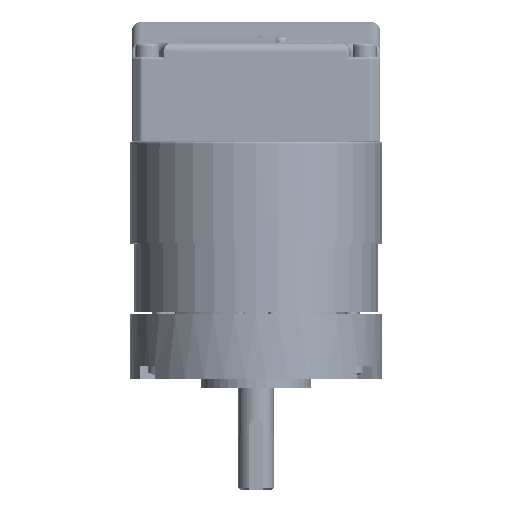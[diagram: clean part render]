
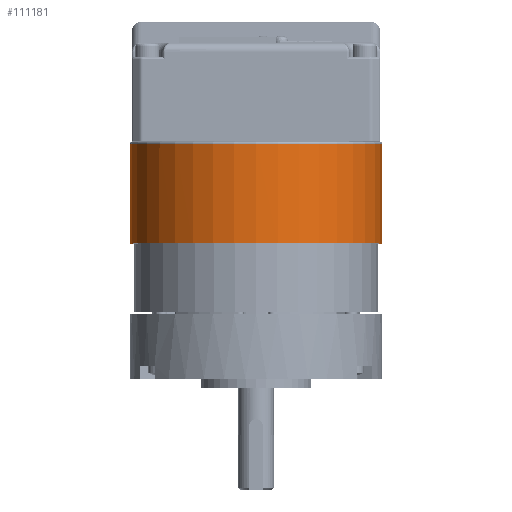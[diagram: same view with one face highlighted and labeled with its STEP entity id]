
A CAD part, top view. The second image highlights one B-rep face of the part: STEP entity #111181.
In plain terms, the highlighted cylindrical face has radius 28.5 mm (diameter 57 mm), a partial arc.
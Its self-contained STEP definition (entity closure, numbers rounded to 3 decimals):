
#110224=CARTESIAN_POINT('',(0.,0.,0.));
#110225=DIRECTION('',(1.,0.,0.));
#110226=DIRECTION('',(0.,1.,0.));
#110227=AXIS2_PLACEMENT_3D('',#110224,#110225,#110226);
#110279=DIRECTION('',(1.,0.,0.));
#110280=VECTOR('',#110279,22.5);
#110281=CARTESIAN_POINT('',(0.,-28.5,0.));
#110282=LINE('',#110281,#110280);
#110303=CARTESIAN_POINT('',(22.5,0.,0.));
#110304=DIRECTION('',(-1.,0.,0.));
#110305=DIRECTION('',(0.,-1.,0.));
#110306=AXIS2_PLACEMENT_3D('',#110303,#110304,#110305);
#110308=CARTESIAN_POINT('',(22.5,0.,0.));
#110309=DIRECTION('',(-1.,0.,0.));
#110310=DIRECTION('',(0.,1.,0.004));
#110311=AXIS2_PLACEMENT_3D('',#110308,#110309,#110310);
#110323=DIRECTION('',(1.,0.,0.));
#110324=VECTOR('',#110323,22.5);
#110325=CARTESIAN_POINT('',(0.,28.5,0.));
#110326=LINE('',#110325,#110324);
#110950=CARTESIAN_POINT('',(0.,-28.5,0.));
#110951=CARTESIAN_POINT('',(0.,28.5,0.));
#110952=VERTEX_POINT('',#110950);
#110953=VERTEX_POINT('',#110951);
#110954=CARTESIAN_POINT('',(22.5,28.5,0.));
#110956=VERTEX_POINT('',#110954);
#110958=CARTESIAN_POINT('',(22.5,-28.5,0.));
#110959=VERTEX_POINT('',#110958);
#110966=CARTESIAN_POINT('',(22.5,28.5,0.124));
#110967=VERTEX_POINT('',#110966);
#111169=CARTESIAN_POINT('',(-1.15,0.,0.));
#111170=DIRECTION('',(1.,0.,0.));
#111171=DIRECTION('',(0.,-1.,0.));
#111172=AXIS2_PLACEMENT_3D('',#111169,#111170,#111171);
#111173=CYLINDRICAL_SURFACE('',#111172,28.5);
#111174=ORIENTED_EDGE('',*,*,#111158,.F.);
#111175=ORIENTED_EDGE('',*,*,#111156,.F.);
#111176=ORIENTED_EDGE('',*,*,#111128,.F.);
#111177=ORIENTED_EDGE('',*,*,#111105,.F.);
#111178=ORIENTED_EDGE('',*,*,#111125,.T.);
#111179=EDGE_LOOP('',(#111174,#111175,#111176,#111177,#111178));
#111180=FACE_OUTER_BOUND('',#111179,.F.);
#110228=CIRCLE('',#110227,28.5);
#110307=CIRCLE('',#110306,28.5);
#110312=CIRCLE('',#110311,28.5);
#111105=EDGE_CURVE('',#110953,#110952,#110228,.T.);
#111125=EDGE_CURVE('',#110953,#110956,#110326,.T.);
#111128=EDGE_CURVE('',#110952,#110959,#110282,.T.);
#111156=EDGE_CURVE('',#110959,#110967,#110307,.T.);
#111158=EDGE_CURVE('',#110967,#110956,#110312,.T.);
#111181=ADVANCED_FACE('',(#111180),#111173,.T.);
